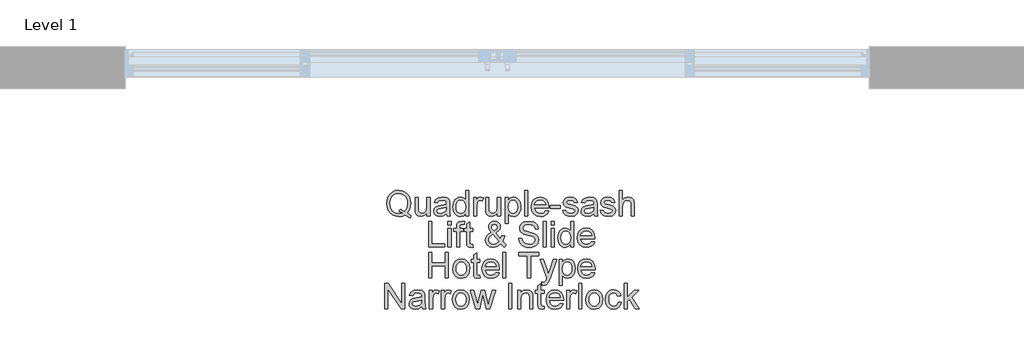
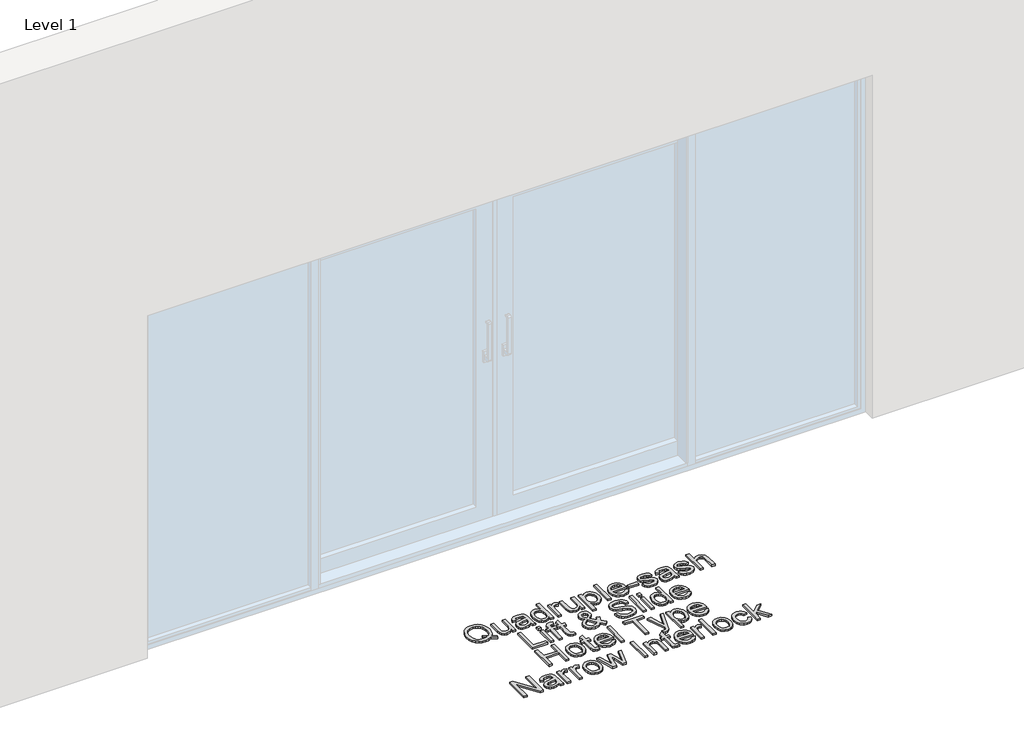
# One storey, part 4 of 13: 1 proxy.
"""IFC4 building model written with IfcOpenShell, lengths in millimetres."""

from ifc_helpers import new_model, si_unit, origin, origin_with_axes, place, context, project, spatial, polyline, outline, extrude, element, save

model = new_model("IFC4")

# Units and contexts
model_context = context("Model", 3, world=origin())
ifc_project = project(units=[si_unit("LENGTHUNIT", "METRE", prefix="MILLI")], contexts=[model_context])

# Site, building, storey
site = spatial("IfcSite", under=ifc_project)
building = spatial("IfcBuilding", under=site)
storey = spatial("IfcBuildingStorey", under=building, Name="Level 1", Elevation=0.0)

# Proxy
placement = place(None, origin())
element("IfcBuildingElementProxy", 1, Name="150mm Arial", ObjectType="150mm Arial", at=placement, inside=storey, context=model_context, shape_type="SweptSolid", body=[
    extrude(outline(polyline([(1197.0276643, -5879.5997474), (1220.388171, -5895.3083086), (1215.3113995, -5909.1038834), (1184.2989473, -5891.4823358), (1166.8705377, -5897.8834825), (1147.6946887, -5900.0171981), (1128.4268692, -5897.5569873), (1111.0168538, -5890.1763547), (1096.4349312, -5878.3397515), (1085.6513903, -5862.5116287), (1078.9881276, -5843.5611074), (1076.7670401, -5822.3573089), (1078.9835291, -5801.1351163), (1085.6329962, -5781.9086836), (1096.3751504, -5765.855233), (1110.869701, -5754.151987), (1128.2153371, -5747.0058793), (1147.5107477, -5744.6238433), (1166.9579097, -5747.0610616), (1184.3909178, -5754.3727162), (1198.8624757, -5766.0713637), (1209.4252875, -5781.6695603), (1215.8816165, -5800.3395715), (1218.0337262, -5821.2536629), (1212.8098019, -5854.1791015), (1206.2523053, -5867.8367206), (1197.0276643, -5879.5997474)]), holes=[polyline([(1152.8818249, -5854.5469835), (1168.7191448, -5860.534263), (1181.5030441, -5868.8575931), (1194.7743871, -5849.4334238), (1199.1981681, -5822.2101561), (1197.6346696, -5805.6324737), (1192.9441741, -5791.2896744), (1185.2416449, -5779.5450417), (1174.6420449, -5770.7618591), (1161.8627441, -5765.2850159), (1147.6211123, -5763.4594015), (1127.093297, -5767.152017), (1110.3914544, -5778.2298636), (1099.2998123, -5796.6377589), (1095.6025982, -5822.3205207), (1099.2584256, -5847.4514595), (1110.2259075, -5865.9697195), (1126.8771663, -5877.3786598), (1147.5843241, -5881.18164), (1167.8546221, -5877.318879), (1148.0257825, -5868.9679577), (1152.8818249, -5854.5469835)])]), origin_with_axes(), (0.0, 0.0, 1.0), 10.0),
    extrude(outline(polyline([(1314.5659618, -5897.6627533), (1314.5659618, -5878.6432542), (1299.8138937, -5894.6737121), (1280.5736654, -5900.0171981), (1262.8601473, -5896.2648018), (1250.6464651, -5886.8470227), (1245.0362647, -5872.9778715), (1243.9326187, -5855.4666885), (1243.9326187, -5787.0038492), (1262.7681768, -5787.0038492), (1262.7681768, -5846.6007324), (1263.908611, -5865.8041726), (1271.3582214, -5877.0797557), (1285.3929195, -5881.18164), (1301.1198748, -5876.9877852), (1311.5125412, -5865.5650493), (1314.5659618, -5844.5773814), (1314.5659618, -5787.0038492), (1333.4015199, -5787.0038492), (1333.4015199, -5897.6627533), (1314.5659618, -5897.6627533)])), origin_with_axes(), (0.0, 0.0, 1.0), 10.0),
    extrude(outline(polyline([(1429.9337554, -5883.5360847), (1411.6684144, -5896.30159), (1391.4900869, -5900.0171981), (1375.7493361, -5897.782315), (1364.1380606, -5891.0776656), (1356.9781573, -5880.8965314), (1354.5915228, -5868.2321937), (1358.1967664, -5853.3329729), (1367.6697278, -5842.5172423), (1380.8582973, -5836.3368247), (1397.1554697, -5833.5041334), (1429.8233908, -5827.0294103), (1429.9337554, -5822.8355555), (1428.6369714, -5814.4294519), (1424.7466193, -5808.9296161), (1416.0462101, -5804.846126), (1403.9244984, -5803.4849626), (1384.868211, -5807.1086002), (1375.7815258, -5819.966076), (1356.9459676, -5817.6116312), (1365.0945538, -5799.2175314), (1381.5020908, -5788.438589), (1406.3525196, -5784.6494044), (1429.1795974, -5787.9971306), (1442.0738613, -5796.4032342), (1447.8496086, -5809.1871335), (1448.7693136, -5825.6682469), (1448.7693136, -5849.10233), (1449.7258068, -5881.8254334), (1453.4782031, -5897.6627533), (1434.642645, -5897.6627533), (1429.9337554, -5883.5360847)]), holes=[polyline([(1429.9337554, -5845.8649684), (1399.5467026, -5851.6407157), (1383.3415008, -5854.6941363), (1376.0022549, -5859.6605432), (1373.427081, -5866.9078185), (1379.0372814, -5877.0981498), (1395.5000007, -5881.18164), (1414.556288, -5876.6750855), (1426.8435467, -5865.7673844), (1429.8233908, -5851.1992574), (1429.9337554, -5845.8649684)])]), origin_with_axes(), (0.0, 0.0, 1.0), 10.0),
    extrude(outline(polyline([(1542.9471044, -5897.6627533), (1542.9471044, -5879.894053), (1530.4851018, -5894.9864118), (1513.2590273, -5900.0171981), (1501.0821333, -5898.1961822), (1489.9353089, -5892.7331346), (1480.4991357, -5884.0097328), (1473.4541955, -5872.4076544), (1469.0672027, -5858.3959489), (1467.6048717, -5842.4436659), (1472.994343, -5812.4612833), (1479.7265835, -5800.5694978), (1489.1443626, -5791.8231033), (1500.5349088, -5786.4428292), (1513.1854509, -5784.6494044), (1530.5494811, -5789.7813583), (1542.9471044, -5803.1170806), (1542.9471044, -5746.9782881), (1561.7826625, -5746.9782881), (1561.7826625, -5897.6627533), (1542.9471044, -5897.6627533)]), holes=[polyline([(1486.4404299, -5842.3700895), (1488.5649484, -5859.4076244), (1494.938504, -5871.5247376), (1504.1999332, -5878.7674144), (1514.9880727, -5881.18164), (1525.7716137, -5878.877779), (1534.7985182, -5871.966196), (1540.9099578, -5860.3181323), (1542.9471044, -5843.8048292), (1540.8731696, -5825.7510203), (1534.6513654, -5813.2338354), (1525.3945347, -5805.9221808), (1514.2155205, -5803.4849626), (1503.3170164, -5805.8256118), (1494.386681, -5812.8475594), (1488.4269927, -5824.9094903), (1486.4404299, -5842.3700895)])]), origin_with_axes(), (0.0, 0.0, 1.0), 10.0),
    extrude(outline(polyline([(1590.0359997, -5897.6627533), (1590.0359997, -5787.0038492), (1606.5171131, -5787.0038492), (1606.5171131, -5803.374598), (1618.2157606, -5788.2914362), (1629.9879844, -5784.6494044), (1648.897119, -5790.4619399), (1642.6063369, -5807.3477235), (1629.362585, -5803.4849626), (1618.7124013, -5807.2005707), (1611.9249785, -5817.5012666), (1608.8715579, -5839.5006099), (1608.8715579, -5897.6627533), (1590.0359997, -5897.6627533)])), origin_with_axes(), (0.0, 0.0, 1.0), 10.0),
    extrude(outline(polyline([(1731.3026859, -5897.6627533), (1731.3026859, -5878.6432542), (1716.5506179, -5894.6737121), (1697.3103895, -5900.0171981), (1679.5968715, -5896.2648018), (1667.3831892, -5886.8470227), (1661.7729888, -5872.9778715), (1660.6693428, -5855.4666885), (1660.6693428, -5787.0038492), (1679.504901, -5787.0038492), (1679.504901, -5846.6007324), (1680.6453352, -5865.8041726), (1688.0949456, -5877.0797557), (1702.1296437, -5881.18164), (1717.856599, -5876.9877852), (1728.2492653, -5865.5650493), (1731.3026859, -5844.5773814), (1731.3026859, -5787.0038492), (1750.138244, -5787.0038492), (1750.138244, -5897.6627533), (1731.3026859, -5897.6627533)])), origin_with_axes(), (0.0, 0.0, 1.0), 10.0),
    extrude(outline(polyline([(1776.0371365, -5940.0427592), (1776.0371365, -5787.0038492), (1794.8726947, -5787.0038492), (1794.8726947, -5805.4715254), (1807.8957173, -5789.8549347), (1825.4804767, -5784.6494044), (1838.2183907, -5786.4704203), (1849.3560181, -5791.9334679), (1858.4243093, -5800.7074535), (1864.9542147, -5812.4612833), (1870.2149273, -5841.4871727), (1868.7296037, -5857.5958055), (1864.273633, -5872.0029842), (1856.9895695, -5883.9775431), (1847.0199675, -5892.7883169), (1835.408692, -5898.2099778), (1823.1996083, -5900.0171981), (1806.8104654, -5895.1795499), (1794.8726947, -5882.9474735), (1794.8726947, -5940.0427592), (1776.0371365, -5940.0427592)]), holes=[polyline([(1794.8726947, -5843.2162181), (1796.9098412, -5860.1020016), (1803.0212808, -5871.9110137), (1812.0389883, -5878.8639834), (1822.7949381, -5881.18164), (1833.7256319, -5878.7812099), (1842.9732655, -5871.5799199), (1849.2778432, -5859.3386465), (1851.3793691, -5841.8182665), (1849.328427, -5825.0244534), (1843.1756006, -5813.0498945), (1834.1716888, -5805.8761955), (1823.5674903, -5803.4849626), (1812.921905, -5806.0279469), (1803.5731038, -5813.6568997), (1797.047797, -5826.1326979), (1794.8726947, -5843.2162181)])]), origin_with_axes(), (0.0, 0.0, 1.0), 10.0),
    extrude(outline(polyline([(1891.4049302, -5897.6627533), (1891.4049302, -5746.9782881), (1910.2404883, -5746.9782881), (1910.2404883, -5897.6627533), (1891.4049302, -5897.6627533)])), origin_with_axes(), (0.0, 0.0, 1.0), 10.0),
    extrude(outline(polyline([(2015.9697738, -5864.7005266), (2034.4374499, -5867.0549713), (2027.7833843, -5880.9701078), (2017.1653902, -5891.3719712), (2002.822591, -5897.8558914), (1984.9941098, -5900.0171981), (1962.8935989, -5896.2877944), (1945.8882537, -5885.0995832), (1935.0449319, -5867.1791315), (1931.4304913, -5843.2530063), (1935.0817201, -5818.5221391), (1946.0354065, -5800.0268718), (1962.8108255, -5788.4937713), (1983.927252, -5784.6494044), (2004.3860894, -5788.4845742), (2020.7338456, -5799.9900836), (2031.4530072, -5818.4485627), (2035.0260611, -5843.1426417), (2034.9156965, -5848.2194132), (1950.2660494, -5848.2194132), (1953.5264036, -5862.3184907), (1961.1001742, -5872.6835659), (1972.030868, -5879.0571214), (1985.3619918, -5881.18164), (2003.8296679, -5877.2453026), (2015.9697738, -5864.7005266)]), holes=[polyline([(1950.2660494, -5829.383855), (2016.190503, -5829.383855), (2013.6429201, -5819.4326471), (2008.6489221, -5812.3141305), (1997.6676445, -5805.6922545), (1983.8536756, -5803.4849626), (1971.1571482, -5805.2461976), (1960.6587158, -5810.5299028), (1953.3608567, -5818.765861), (1950.2660494, -5829.383855)])]), origin_with_axes(), (0.0, 0.0, 1.0), 10.0),
    extrude(outline(polyline([(2044.4438402, -5852.9283027), (2044.4438402, -5834.0927446), (2103.3049594, -5834.0927446), (2103.3049594, -5852.9283027), (2044.4438402, -5852.9283027)])), origin_with_axes(), (0.0, 0.0, 1.0), 10.0),
    extrude(outline(polyline([(2117.431628, -5864.7005266), (2136.2671862, -5862.3460818), (2139.2378333, -5870.4026975), (2144.9859895, -5876.3255976), (2164.9619818, -5881.18164), (2184.165422, -5876.7302678), (2190.4194159, -5866.2824192), (2188.8467203, -5861.4815591), (2184.1286338, -5857.8211333), (2164.7412526, -5852.4500561), (2136.3775508, -5843.2346122), (2123.9983216, -5832.4740638), (2119.7860728, -5817.2805374), (2123.1705872, -5803.2458393), (2132.4044252, -5792.5220791), (2144.3789842, -5786.9486669), (2160.5841861, -5784.6494044), (2183.5032344, -5788.3466185), (2198.0713614, -5798.3530087), (2204.5460845, -5815.2571864), (2185.7105263, -5817.6116312), (2178.6287979, -5807.2189648), (2162.055714, -5803.4849626), (2144.0294963, -5807.0534179), (2138.6216309, -5815.367551), (2140.8657111, -5820.8489927), (2147.8922572, -5825.0060593), (2164.1158532, -5829.015973), (2191.7621852, -5837.8819291), (2204.6012668, -5847.9251076), (2209.254974, -5864.2958564), (2203.7919264, -5882.3220741), (2188.0281829, -5895.4002791), (2164.7044644, -5900.0171981), (2145.7125564, -5897.791512), (2131.8526022, -5891.1144538), (2122.6003701, -5880.0595999), (2117.431628, -5864.7005266)])), origin_with_axes(), (0.0, 0.0, 1.0), 10.0),
    extrude(outline(polyline([(2301.07832, -5883.5360847), (2282.812979, -5896.30159), (2262.6346515, -5900.0171981), (2246.8939007, -5897.782315), (2235.2826252, -5891.0776656), (2228.1227219, -5880.8965314), (2225.7360874, -5868.2321937), (2229.341331, -5853.3329729), (2238.8142923, -5842.5172423), (2252.0028619, -5836.3368247), (2268.3000342, -5833.5041334), (2300.9679554, -5827.0294103), (2301.07832, -5822.8355555), (2299.781536, -5814.4294519), (2295.8911839, -5808.9296161), (2287.1907747, -5804.846126), (2275.069063, -5803.4849626), (2256.0127756, -5807.1086002), (2246.9260903, -5819.966076), (2228.0905322, -5817.6116312), (2236.2391184, -5799.2175314), (2252.6466554, -5788.438589), (2277.4970841, -5784.6494044), (2300.3241619, -5787.9971306), (2313.2184259, -5796.4032342), (2318.9941732, -5809.1871335), (2319.9138782, -5825.6682469), (2319.9138782, -5849.10233), (2320.8703714, -5881.8254334), (2324.6227677, -5897.6627533), (2305.7872096, -5897.6627533), (2301.07832, -5883.5360847)]), holes=[polyline([(2301.07832, -5845.8649684), (2270.6912672, -5851.6407157), (2254.4860653, -5854.6941363), (2247.1468195, -5859.6605432), (2244.5716456, -5866.9078185), (2250.181846, -5877.0981498), (2266.6445653, -5881.18164), (2285.7008526, -5876.6750855), (2297.9881113, -5865.7673844), (2300.9679554, -5851.1992574), (2301.07832, -5845.8649684)])]), origin_with_axes(), (0.0, 0.0, 1.0), 10.0),
    extrude(outline(polyline([(2338.7494363, -5864.7005266), (2357.5849945, -5862.3460818), (2360.5556416, -5870.4026975), (2366.3037978, -5876.3255976), (2386.2797901, -5881.18164), (2405.4832303, -5876.7302678), (2411.7372242, -5866.2824192), (2410.1645286, -5861.4815591), (2405.4464421, -5857.8211333), (2386.0590609, -5852.4500561), (2357.6953591, -5843.2346122), (2345.3161299, -5832.4740638), (2341.1038811, -5817.2805374), (2344.4883955, -5803.2458393), (2353.7222335, -5792.5220791), (2365.6967925, -5786.9486669), (2381.9019944, -5784.6494044), (2404.8210427, -5788.3466185), (2419.3891697, -5798.3530087), (2425.8638928, -5815.2571864), (2407.0283346, -5817.6116312), (2399.9466062, -5807.2189648), (2383.3735223, -5803.4849626), (2365.3473046, -5807.0534179), (2359.9394392, -5815.367551), (2362.1835194, -5820.8489927), (2369.2100655, -5825.0060593), (2385.4336615, -5829.015973), (2413.0799935, -5837.8819291), (2425.9190751, -5847.9251076), (2430.5727823, -5864.2958564), (2425.1097347, -5882.3220741), (2409.3459912, -5895.4002791), (2386.0222727, -5900.0171981), (2367.0303647, -5897.791512), (2353.1704105, -5891.1144538), (2343.9181784, -5880.0595999), (2338.7494363, -5864.7005266)])), origin_with_axes(), (0.0, 0.0, 1.0), 10.0),
    extrude(outline(polyline([(2451.7627852, -5897.6627533), (2451.7627852, -5746.9782881), (2470.5983434, -5746.9782881), (2470.5983434, -5802.3813166), (2485.2860321, -5789.0823825), (2503.3766292, -5784.6494044), (2524.5298439, -5789.4870527), (2537.3689255, -5802.8595632), (2541.2316865, -5827.6180215), (2541.2316865, -5897.6627533), (2522.3961283, -5897.6627533), (2522.3961283, -5829.567796), (2520.8970092, -5817.7771781), (2516.3996518, -5809.7021683), (2509.1523765, -5805.039264), (2499.4035036, -5803.4849626), (2483.9708539, -5807.6788173), (2473.6701581, -5819.046371), (2470.5983434, -5838.8752105), (2470.5983434, -5897.6627533), (2451.7627852, -5897.6627533)])), origin_with_axes(), (0.0, 0.0, 1.0), 10.0),
    extrude(outline(polyline([(1325.1609632, -6080.6249801), (1325.1609632, -5929.9405149), (1343.9965214, -5929.9405149), (1343.9965214, -6061.789422), (1419.338754, -6061.789422), (1419.338754, -6080.6249801), (1325.1609632, -6080.6249801)])), origin_with_axes(), (0.0, 0.0, 1.0), 10.0),
    extrude(outline(polyline([(1438.1743121, -5948.776073), (1438.1743121, -5929.9405149), (1457.0098703, -5929.9405149), (1457.0098703, -5948.776073), (1438.1743121, -5948.776073)])), origin_with_axes(), (0.0, 0.0, 1.0), 10.0),
    extrude(outline(polyline([(1438.1743121, -6080.6249801), (1438.1743121, -5969.966076), (1457.0098703, -5969.966076), (1457.0098703, -6080.6249801), (1438.1743121, -6080.6249801)])), origin_with_axes(), (0.0, 0.0, 1.0), 10.0),
    extrude(outline(polyline([(1586.5043326, -6064.9164189), (1588.8587774, -6081.1768031), (1574.7688969, -6082.9794249), (1558.9867593, -6079.8524279), (1551.1140847, -6071.6486594), (1548.8332163, -6050.2747155), (1548.8332163, -5988.8016341), (1534.7065477, -5988.8016341), (1534.7065477, -5969.966076), (1548.8332163, -5969.966076), (1548.8332163, -5943.0739021), (1567.6687744, -5932.0006541), (1567.6687744, -5969.966076), (1586.5043326, -5969.966076), (1586.5043326, -5988.8016341), (1567.6687744, -5988.8016341), (1567.6687744, -6049.7228925), (1568.6620558, -6059.4349772), (1571.8810233, -6062.8746738), (1578.3005641, -6064.1438667), (1586.5043326, -6064.9164189)])), origin_with_axes(), (0.0, 0.0, 1.0), 10.0),
    extrude(outline(polyline([(1489.9720971, -6080.6249801), (1489.9720971, -5988.8016341), (1473.4909837, -5988.8016341), (1473.4909837, -5969.966076), (1489.9720971, -5969.966076), (1489.9720971, -5958.8192515), (1491.9586598, -5943.1106903), (1501.5971681, -5931.8902895), (1520.5798791, -5927.5860701), (1537.7599682, -5929.6462093), (1535.0008533, -5947.3045451), (1524.1483344, -5946.4216283), (1512.2841401, -5949.5486252), (1508.8076552, -5961.2104845), (1508.8076552, -5969.966076), (1529.9976581, -5969.966076), (1529.9976581, -5988.8016341), (1508.8076552, -5988.8016341), (1508.8076552, -6080.6249801), (1489.9720971, -6080.6249801)])), origin_with_axes(), (0.0, 0.0, 1.0), 10.0),
    extrude(outline(polyline([(1750.6164906, -6062.0101512), (1730.6404983, -6077.7371064), (1707.2799916, -6082.9794249), (1686.4946589, -6079.0982698), (1670.4917921, -6067.4548047), (1662.2420383, -6054.054703), (1659.4921204, -6039.1646793), (1661.7040109, -6025.9669127), (1668.3396824, -6014.1119154), (1679.3715437, -6003.6088844), (1694.7720038, -5994.4670168), (1681.6202224, -5975.4107295), (1678.3276786, -5961.2840609), (1680.9212467, -5948.5645409), (1688.7019508, -5937.6292486), (1700.4097953, -5930.0968647), (1714.7847843, -5927.5860701), (1728.4607975, -5929.9865001), (1739.3960898, -5937.1877902), (1746.5697887, -5947.7552005), (1748.9610217, -5960.2539913), (1747.1905896, -5970.7478252), (1741.8792933, -5980.4507128), (1720.634108, -5997.4836492), (1747.8941639, -6031.4391574), (1756.024356, -6010.5802482), (1774.8599141, -6014.6637384), (1761.5425859, -6045.6761906), (1784.2776932, -6068.4848743), (1770.1510246, -6082.9794249), (1750.6164906, -6062.0101512)]), holes=[polyline([(1711.1059644, -5985.6010608), (1726.5937964, -5973.9208074), (1730.1254635, -5962.8291653), (1725.4717563, -5951.0017591), (1713.8282911, -5946.4216283), (1701.9273086, -5950.9649709), (1697.1632367, -5962.0566131), (1698.7819175, -5968.9544005), (1703.6747481, -5976.6247401), (1711.1059644, -5985.6010608)]), polyline([(1737.9981382, -6048.4353055), (1704.3737238, -6006.4599699), (1683.6803616, -6022.2421075), (1678.3276786, -6036.6630817), (1680.1578915, -6045.5474319), (1685.6485303, -6054.7628758), (1694.4960923, -6061.798619), (1706.3970748, -6064.1438667), (1723.7059227, -6059.766071), (1737.9981382, -6048.4353055)])]), origin_with_axes(), (0.0, 0.0, 1.0), 10.0),
    extrude(outline(polyline([(1857.265481, -6028.8271952), (1876.1010392, -6028.8271952), (1882.1710921, -6047.6811474), (1896.9967365, -6059.6005241), (1919.584691, -6064.1438667), (1939.2663778, -6060.7041701), (1951.9767007, -6051.2496028), (1956.1521613, -6038.6128563), (1953.0251644, -6026.8590265), (1940.222871, -6018.3057701), (1912.7972682, -6011.1136771), (1883.2747381, -6001.8246567), (1867.2534772, -5987.8083527), (1861.9743706, -5969.0831592), (1863.6068469, -5958.0512978), (1868.504276, -5947.7643976), (1876.5378991, -5939.0455943), (1887.5789574, -5932.7180239), (1915.5012009, -5927.5860701), (1945.2996425, -5932.9571472), (1956.7223784, -5939.5882202), (1965.1652702, -5948.7392848), (1970.5087562, -5959.840124), (1972.6332747, -5972.3205207), (1953.7977166, -5972.3205207), (1950.3396258, -5961.0817258), (1943.1291387, -5952.9699278), (1931.8627526, -5948.0587031), (1916.2369649, -5946.4216283), (1900.2432951, -5948.040309), (1889.2712146, -5952.8963514), (1882.9252502, -5960.0424591), (1880.8099287, -5968.5313362), (1882.3090479, -5975.7694144), (1886.8064053, -5981.591147), (1917.56134, -5992.1125721), (1950.8914488, -6001.5671393), (1961.6290045, -6008.4005474), (1969.1200017, -6016.8342421), (1973.52079, -6026.7762531), (1974.9877195, -6038.1346097), (1973.3000608, -6049.7458851), (1968.2370849, -6060.6673819), (1960.0057252, -6070.0667668), (1948.8129155, -6077.1117071), (1935.353033, -6081.5124954), (1920.320455, -6082.9794249), (1901.8665744, -6081.3975323), (1886.6776466, -6076.6518546), (1874.5789274, -6068.7239976), (1865.3956731, -6057.5955672), (1859.5003642, -6044.0391157), (1857.265481, -6028.8271952)])), origin_with_axes(), (0.0, 0.0, 1.0), 10.0),
    extrude(outline(polyline([(2000.886612, -6080.6249801), (2000.886612, -5929.9405149), (2019.7221701, -5929.9405149), (2019.7221701, -6080.6249801), (2000.886612, -6080.6249801)])), origin_with_axes(), (0.0, 0.0, 1.0), 10.0),
    extrude(outline(polyline([(2047.9755073, -5948.776073), (2047.9755073, -5929.9405149), (2066.8110655, -5929.9405149), (2066.8110655, -5948.776073), (2047.9755073, -5948.776073)])), origin_with_axes(), (0.0, 0.0, 1.0), 10.0),
    extrude(outline(polyline([(2047.9755073, -6080.6249801), (2047.9755073, -5969.966076), (2066.8110655, -5969.966076), (2066.8110655, -6080.6249801), (2047.9755073, -6080.6249801)])), origin_with_axes(), (0.0, 0.0, 1.0), 10.0),
    extrude(outline(polyline([(2163.343301, -6080.6249801), (2163.343301, -6062.8562797), (2150.8812984, -6077.9486386), (2133.655224, -6082.9794249), (2121.47833, -6081.158409), (2110.3315055, -6075.6953614), (2100.8953323, -6066.9719596), (2093.8503921, -6055.3698811), (2089.4633993, -6041.3581756), (2088.0010684, -6025.4058926), (2093.3905396, -5995.42351), (2100.1227802, -5983.5317245), (2109.5405592, -5974.7853301), (2120.9311055, -5969.4050559), (2133.5816476, -5967.6116312), (2150.9456778, -5972.743585), (2163.343301, -5986.0793073), (2163.343301, -5929.9405149), (2182.1788592, -5929.9405149), (2182.1788592, -6080.6249801), (2163.343301, -6080.6249801)]), holes=[polyline([(2106.8366266, -6025.3323162), (2108.9611451, -6042.3698511), (2115.3347007, -6054.4869644), (2124.5961299, -6061.7296411), (2135.3842694, -6064.1438667), (2146.1678104, -6061.8400057), (2155.1947148, -6054.9284227), (2161.3061545, -6043.2803591), (2163.343301, -6026.767056), (2161.2693663, -6008.7132471), (2155.047562, -5996.1960622), (2145.7907313, -5988.8844076), (2134.6117172, -5986.4471893), (2123.7132131, -5988.7878385), (2114.7828777, -5995.8097861), (2108.8231893, -6007.871717), (2106.8366266, -6025.3323162)])]), origin_with_axes(), (0.0, 0.0, 1.0), 10.0),
    extrude(outline(polyline([(2287.9081446, -6047.6627533), (2306.3758208, -6050.0171981), (2299.7217552, -6063.9323346), (2289.1037611, -6074.334198), (2274.7609618, -6080.8181182), (2256.9324806, -6082.9794249), (2234.8319697, -6079.2500212), (2217.8266245, -6068.06181), (2206.9833027, -6050.1413583), (2203.3688621, -6026.215233), (2207.0200909, -6001.4843659), (2217.9737773, -5982.9890986), (2234.7491963, -5971.455998), (2255.8656228, -5967.6116312), (2276.3244603, -5971.446801), (2292.6722164, -5982.9523104), (2303.3913781, -6001.4107895), (2306.9644319, -6026.1048684), (2306.8540673, -6031.18164), (2222.2044203, -6031.18164), (2225.4647744, -6045.2807174), (2233.038545, -6055.6457926), (2243.9692388, -6062.0193482), (2257.3003626, -6064.1438667), (2275.7680388, -6060.2075294), (2287.9081446, -6047.6627533)]), holes=[polyline([(2222.2044203, -6012.3460818), (2288.1288738, -6012.3460818), (2285.581291, -6002.3948738), (2280.5872929, -5995.2763572), (2269.6060153, -5988.6544813), (2255.7920464, -5986.4471893), (2243.0955191, -5988.2084244), (2232.5970866, -5993.4921296), (2225.2992275, -6001.7280877), (2222.2044203, -6012.3460818)])]), origin_with_axes(), (0.0, 0.0, 1.0), 10.0),
    extrude(outline(polyline([(1323.9837408, -6263.5872069), (1323.9837408, -6112.9027417), (1342.819299, -6112.9027417), (1342.819299, -6174.1183057), (1422.8704211, -6174.1183057), (1422.8704211, -6112.9027417), (1441.7059793, -6112.9027417), (1441.7059793, -6263.5872069), (1422.8704211, -6263.5872069), (1422.8704211, -6192.9538638), (1342.819299, -6192.9538638), (1342.819299, -6263.5872069), (1323.9837408, -6263.5872069)])), origin_with_axes(), (0.0, 0.0, 1.0), 10.0),
    extrude(outline(polyline([(1467.6048717, -6208.2577548), (1471.6791648, -6181.5771131), (1483.9020441, -6162.8243284), (1499.0036, -6153.6364756), (1517.0850001, -6150.573858), (1536.8724529, -6154.3032617), (1552.6775831, -6165.4914729), (1563.0380598, -6183.2555747), (1566.4915521, -6206.7126504), (1564.9648418, -6225.7413466), (1560.3847109, -6240.2267002), (1552.8845168, -6251.0746205), (1542.5976165, -6259.191017), (1530.3793357, -6264.253993), (1517.0850001, -6265.9416516), (1497.058424, -6262.2260435), (1481.2716879, -6251.079219), (1471.0215758, -6232.9426367), (1467.6048717, -6208.2577548)]), holes=[polyline([(1486.4404299, -6208.2209666), (1488.6201307, -6225.2676986), (1495.1592332, -6237.4124029), (1505.0000766, -6244.6826709), (1517.0850001, -6247.1060935), (1529.1147413, -6244.6688753), (1538.9371906, -6237.3572206), (1545.4762931, -6225.0515679), (1547.6559939, -6207.6323554), (1545.4624975, -6191.0822642), (1538.8820083, -6179.1031067), (1529.0457635, -6171.8328388), (1517.0850001, -6169.4094161), (1505.0000766, -6171.8236417), (1495.1592332, -6179.0663185), (1488.6201307, -6191.1834317), (1486.4404299, -6208.2209666)])]), origin_with_axes(), (0.0, 0.0, 1.0), 10.0),
    extrude(outline(polyline([(1627.707116, -6247.8786457), (1630.0615608, -6264.1390299), (1615.9716804, -6265.9416516), (1600.1895428, -6262.8146547), (1592.3168681, -6254.6108862), (1590.0359997, -6233.2369423), (1590.0359997, -6171.7638609), (1575.9093311, -6171.7638609), (1575.9093311, -6152.9283027), (1590.0359997, -6152.9283027), (1590.0359997, -6126.0361289), (1608.8715579, -6114.9628808), (1608.8715579, -6152.9283027), (1627.707116, -6152.9283027), (1627.707116, -6171.7638609), (1608.8715579, -6171.7638609), (1608.8715579, -6232.6851193), (1609.8648393, -6242.397204), (1613.0838067, -6245.8369006), (1619.5033476, -6247.1060935), (1627.707116, -6247.8786457)])), origin_with_axes(), (0.0, 0.0, 1.0), 10.0),
    extrude(outline(polyline([(1724.0186224, -6230.6249801), (1742.4862985, -6232.9794249), (1735.832233, -6246.8945613), (1725.2142389, -6257.2964248), (1710.8714396, -6263.7803449), (1693.0429584, -6265.9416516), (1670.9424475, -6262.2122479), (1653.9371023, -6251.0240367), (1643.0937805, -6233.1035851), (1639.4793399, -6209.1774598), (1643.1305687, -6184.4465927), (1654.0842551, -6165.9513254), (1670.8596741, -6154.4182248), (1691.9761006, -6150.573858), (1712.4349381, -6154.4090278), (1728.7826942, -6165.9145372), (1739.5018559, -6184.3730163), (1743.0749097, -6209.0670952), (1742.9645451, -6214.1438667), (1658.314898, -6214.1438667), (1661.5752522, -6228.2429442), (1669.1490228, -6238.6080194), (1680.0797166, -6244.981575), (1693.4108404, -6247.1060935), (1711.8785165, -6243.1697561), (1724.0186224, -6230.6249801)]), holes=[polyline([(1658.314898, -6195.3083086), (1724.2393516, -6195.3083086), (1721.6917688, -6185.3571006), (1716.6977707, -6178.238584), (1705.7164931, -6171.6167081), (1691.9025242, -6169.4094161), (1679.2059968, -6171.1706512), (1668.7075644, -6176.4543563), (1661.4097053, -6184.6903145), (1658.314898, -6195.3083086)])]), origin_with_axes(), (0.0, 0.0, 1.0), 10.0),
    extrude(outline(polyline([(1761.9104679, -6263.5872069), (1761.9104679, -6112.9027417), (1780.746026, -6112.9027417), (1780.746026, -6263.5872069), (1761.9104679, -6263.5872069)])), origin_with_axes(), (0.0, 0.0, 1.0), 10.0),
    extrude(outline(polyline([(1907.8860436, -6263.5872069), (1907.8860436, -6131.7382998), (1858.4427034, -6131.7382998), (1858.4427034, -6112.9027417), (1976.1649419, -6112.9027417), (1976.1649419, -6131.7382998), (1926.7216017, -6131.7382998), (1926.7216017, -6263.5872069), (1907.8860436, -6263.5872069)])), origin_with_axes(), (0.0, 0.0, 1.0), 10.0),
    extrude(outline(polyline([(1995.0005, -6305.9672127), (1992.6460553, -6287.8306304), (2002.2109871, -6289.4860993), (2011.1505196, -6287.4075661), (2016.6319613, -6281.6134246), (2021.7823093, -6267.7442734), (2023.2538373, -6263.1825367), (1983.2282762, -6152.9283027), (2003.0939039, -6152.9283027), (2024.320695, -6214.3645959), (2031.7151232, -6238.9391132), (2039.1095513, -6217.2340755), (2060.9249536, -6152.9283027), (2080.6434285, -6152.9283027), (2042.1261836, -6266.2359572), (2032.1197933, -6290.8104745), (2021.1936981, -6304.0910145), (2006.5152065, -6308.3216575), (1995.0005, -6305.9672127)])), origin_with_axes(), (0.0, 0.0, 1.0), 10.0),
    extrude(outline(polyline([(2096.2416251, -6305.9672127), (2096.2416251, -6152.9283027), (2115.0771833, -6152.9283027), (2115.0771833, -6171.3959789), (2128.1002059, -6155.7793882), (2145.6849653, -6150.573858), (2158.4228793, -6152.3948738), (2169.5605067, -6157.8579215), (2178.6287979, -6166.631907), (2185.1587033, -6178.3857368), (2190.4194159, -6207.4116262), (2188.9340923, -6223.5202591), (2184.4781216, -6237.9274377), (2177.1940581, -6249.9019967), (2167.2244561, -6258.7127704), (2155.6131806, -6264.1344313), (2143.4040969, -6265.9416516), (2127.014954, -6261.1040034), (2115.0771833, -6248.8719271), (2115.0771833, -6305.9672127), (2096.2416251, -6305.9672127)]), holes=[polyline([(2115.0771833, -6209.1406716), (2117.1143298, -6226.0264552), (2123.2257695, -6237.8354672), (2132.2434769, -6244.7884369), (2142.9994267, -6247.1060935), (2153.9301205, -6244.7056635), (2163.1777541, -6237.5043734), (2169.4823318, -6225.2631), (2171.5838577, -6207.74272), (2169.5329156, -6190.9489069), (2163.3800892, -6178.974348), (2154.3761774, -6171.8006491), (2143.7719789, -6169.4094161), (2133.1263936, -6171.9524004), (2123.7775924, -6179.5813533), (2117.2522856, -6192.0571514), (2115.0771833, -6209.1406716)])]), origin_with_axes(), (0.0, 0.0, 1.0), 10.0),
    extrude(outline(polyline([(2289.085367, -6230.6249801), (2307.5530431, -6232.9794249), (2300.8989775, -6246.8945613), (2290.2809835, -6257.2964248), (2275.9381842, -6263.7803449), (2258.109703, -6265.9416516), (2236.0091921, -6262.2122479), (2219.0038469, -6251.0240367), (2208.1605251, -6233.1035851), (2204.5460845, -6209.1774598), (2208.1973133, -6184.4465927), (2219.1509997, -6165.9513254), (2235.9264187, -6154.4182248), (2257.0428452, -6150.573858), (2277.5016827, -6154.4090278), (2293.8494388, -6165.9145372), (2304.5686004, -6184.3730163), (2308.1416543, -6209.0670952), (2308.0312897, -6214.1438667), (2223.3816426, -6214.1438667), (2226.6419968, -6228.2429442), (2234.2157674, -6238.6080194), (2245.1464612, -6244.981575), (2258.477585, -6247.1060935), (2276.9452611, -6243.1697561), (2289.085367, -6230.6249801)]), holes=[polyline([(2223.3816426, -6195.3083086), (2289.3060962, -6195.3083086), (2286.7585134, -6185.3571006), (2281.7645153, -6178.238584), (2270.7832377, -6171.6167081), (2256.9692688, -6169.4094161), (2244.2727414, -6171.1706512), (2233.774309, -6176.4543563), (2226.4764499, -6184.6903145), (2223.3816426, -6195.3083086)])]), origin_with_axes(), (0.0, 0.0, 1.0), 10.0),
    extrude(outline(polyline([(1064.9948162, -6446.5494336), (1064.9948162, -6295.8649684), (1085.1547496, -6295.8649684), (1163.8814965, -6415.2426759), (1163.8814965, -6295.8649684), (1182.7170547, -6295.8649684), (1182.7170547, -6446.5494336), (1162.5571213, -6446.5494336), (1083.8303744, -6327.134938), (1083.8303744, -6446.5494336), (1064.9948162, -6446.5494336)])), origin_with_axes(), (0.0, 0.0, 1.0), 10.0),
    extrude(outline(polyline([(1283.9581798, -6432.422765), (1265.6928387, -6445.1882703), (1245.5145113, -6448.9038784), (1229.7737604, -6446.6689953), (1218.1624849, -6439.9643459), (1211.0025816, -6429.7832117), (1208.6159471, -6417.118874), (1212.2211907, -6402.2196532), (1221.6941521, -6391.4039226), (1234.8827216, -6385.223505), (1251.179894, -6382.3908137), (1283.8478152, -6375.9160906), (1283.9581798, -6371.7222358), (1282.6613957, -6363.3161322), (1278.7710436, -6357.8162964), (1270.0706344, -6353.7328063), (1257.9489227, -6352.3716429), (1238.8926353, -6355.9952805), (1229.8059501, -6368.8527563), (1210.9703919, -6366.4983115), (1219.1189781, -6348.1042117), (1235.5265151, -6337.3252693), (1260.3769439, -6333.5360847), (1283.2040217, -6336.8838109), (1296.0982856, -6345.2899145), (1301.8740329, -6358.0738138), (1302.7937379, -6374.5549272), (1302.7937379, -6397.9890103), (1303.7502311, -6430.7121138), (1307.5026274, -6446.5494336), (1288.6670693, -6446.5494336), (1283.9581798, -6432.422765)]), holes=[polyline([(1283.9581798, -6394.7516487), (1253.571127, -6400.527396), (1237.3659251, -6403.5808166), (1230.0266793, -6408.5472235), (1227.4515053, -6415.7944988), (1233.0617057, -6425.9848301), (1249.524425, -6430.0683203), (1268.5807124, -6425.5617658), (1280.867971, -6414.6540647), (1283.8478152, -6400.0859377), (1283.9581798, -6394.7516487)])]), origin_with_axes(), (0.0, 0.0, 1.0), 10.0),
    extrude(outline(polyline([(1328.6926304, -6446.5494336), (1328.6926304, -6335.8905295), (1345.1737438, -6335.8905295), (1345.1737438, -6352.2612783), (1356.8723912, -6337.1781165), (1368.644615, -6333.5360847), (1387.5537496, -6339.3486203), (1381.2629675, -6356.2344038), (1368.0192157, -6352.3716429), (1357.3690319, -6356.087251), (1350.5816091, -6366.3879469), (1347.5281885, -6388.3872902), (1347.5281885, -6446.5494336), (1328.6926304, -6446.5494336)])), origin_with_axes(), (0.0, 0.0, 1.0), 10.0),
    extrude(outline(polyline([(1399.3259734, -6446.5494336), (1399.3259734, -6335.8905295), (1415.8070868, -6335.8905295), (1415.8070868, -6352.2612783), (1427.5057343, -6337.1781165), (1439.2779581, -6333.5360847), (1458.1870927, -6339.3486203), (1451.8963106, -6356.2344038), (1438.6525587, -6352.3716429), (1428.002375, -6356.087251), (1421.2149522, -6366.3879469), (1418.1615316, -6388.3872902), (1418.1615316, -6446.5494336), (1399.3259734, -6446.5494336)])), origin_with_axes(), (0.0, 0.0, 1.0), 10.0),
    extrude(outline(polyline([(1465.250427, -6391.2199816), (1469.3247201, -6364.5393399), (1481.5475994, -6345.7865552), (1496.6491553, -6336.5987023), (1514.7305553, -6333.5360847), (1534.5180081, -6337.2654885), (1550.3231384, -6348.4536996), (1560.6836151, -6366.2178015), (1564.1371073, -6389.6748772), (1562.610397, -6408.7035734), (1558.0302662, -6423.188927), (1550.530072, -6434.0368473), (1540.2431717, -6442.1532438), (1528.0248909, -6447.2162198), (1514.7305553, -6448.9038784), (1494.7039792, -6445.1882703), (1478.9172431, -6434.0414458), (1468.667131, -6415.9048634), (1465.250427, -6391.2199816)]), holes=[polyline([(1484.0859851, -6391.1831934), (1486.265686, -6408.2299253), (1492.8047884, -6420.3746297), (1502.6456318, -6427.6448976), (1514.7305553, -6430.0683203), (1526.7602966, -6427.631102), (1536.5827458, -6420.3194474), (1543.1218483, -6408.0137947), (1545.3015491, -6390.5945822), (1543.1080527, -6374.0444909), (1536.5275635, -6362.0653335), (1526.6913187, -6354.7950655), (1514.7305553, -6352.3716429), (1502.6456318, -6354.7858685), (1492.8047884, -6362.0285453), (1486.265686, -6374.1456585), (1484.0859851, -6391.1831934)])]), origin_with_axes(), (0.0, 0.0, 1.0), 10.0),
    extrude(outline(polyline([(1603.6844218, -6446.5494336), (1570.0232192, -6335.8905295), (1589.5945413, -6335.8905295), (1608.6876169, -6400.4538196), (1614.3897878, -6423.5200207), (1619.0618892, -6401.2999482), (1634.2554156, -6335.8905295), (1656.6962173, -6335.8905295), (1671.8161673, -6401.1160072), (1675.9732338, -6421.2391524), (1681.9329221, -6400.0123613), (1701.0627859, -6335.8905295), (1720.7076844, -6335.8905295), (1686.7889645, -6446.5494336), (1664.017069, -6446.5494336), (1649.5593066, -6381.6550497), (1645.3654518, -6361.42154), (1626.7138347, -6446.5494336), (1603.6844218, -6446.5494336)])), origin_with_axes(), (0.0, 0.0, 1.0), 10.0),
    extrude(outline(polyline([(1797.2271394, -6446.5494336), (1797.2271394, -6295.8649684), (1816.0626976, -6295.8649684), (1816.0626976, -6446.5494336), (1797.2271394, -6446.5494336)])), origin_with_axes(), (0.0, 0.0, 1.0), 10.0),
    extrude(outline(polyline([(1851.3793691, -6446.5494336), (1851.3793691, -6335.8905295), (1870.2149273, -6335.8905295), (1870.2149273, -6351.3415733), (1884.6175074, -6337.9874569), (1904.2808, -6333.5360847), (1922.0678945, -6337.1229342), (1934.2080003, -6346.5407133), (1939.854989, -6360.3914704), (1940.8482703, -6378.6016291), (1940.8482703, -6446.5494336), (1922.0127122, -6446.5494336), (1922.0127122, -6381.1400149), (1919.8422084, -6364.4749605), (1912.1718688, -6355.6641867), (1899.2408167, -6352.3716429), (1888.2089554, -6354.2202499), (1878.8049719, -6359.766071), (1872.3624384, -6370.4806341), (1870.2149273, -6387.8354672), (1870.2149273, -6446.5494336), (1851.3793691, -6446.5494336)])), origin_with_axes(), (0.0, 0.0, 1.0), 10.0),
    extrude(outline(polyline([(2006.7727239, -6430.8408725), (2009.1271686, -6447.1012566), (1995.0372882, -6448.9038784), (1979.2551506, -6445.7768815), (1971.3824759, -6437.573113), (1969.1016076, -6416.199169), (1969.1016076, -6354.7260876), (1954.974939, -6354.7260876), (1954.974939, -6335.8905295), (1969.1016076, -6335.8905295), (1969.1016076, -6308.9983556), (1987.9371657, -6297.9251076), (1987.9371657, -6335.8905295), (2006.7727239, -6335.8905295), (2006.7727239, -6354.7260876), (1987.9371657, -6354.7260876), (1987.9371657, -6415.6473461), (1988.9304471, -6425.3594307), (1992.1494146, -6428.7991274), (1998.5689554, -6430.0683203), (2006.7727239, -6430.8408725)])), origin_with_axes(), (0.0, 0.0, 1.0), 10.0),
    extrude(outline(polyline([(2103.0842302, -6413.5872069), (2121.5519064, -6415.9416516), (2114.8978408, -6429.8567881), (2104.2798467, -6440.2586515), (2089.9370474, -6446.7425717), (2072.1085662, -6448.9038784), (2050.0080554, -6445.1744747), (2033.0027101, -6433.9862635), (2022.1593883, -6416.0658118), (2018.5449477, -6392.1396866), (2022.1961765, -6367.4088194), (2033.1498629, -6348.9135521), (2049.9252819, -6337.3804516), (2071.0417084, -6333.5360847), (2091.5005459, -6337.3712545), (2107.8483021, -6348.8767639), (2118.5674637, -6367.335243), (2122.1405176, -6392.029322), (2122.030153, -6397.1060935), (2037.3805059, -6397.1060935), (2040.6408601, -6411.205171), (2048.2146306, -6421.5702462), (2059.1453244, -6427.9438017), (2072.4764482, -6430.0683203), (2090.9441244, -6426.1319829), (2103.0842302, -6413.5872069)]), holes=[polyline([(2037.3805059, -6378.2705353), (2103.3049594, -6378.2705353), (2100.7573766, -6368.3193274), (2095.7633785, -6361.2008108), (2084.782101, -6354.5789349), (2070.968132, -6352.3716429), (2058.2716047, -6354.1328779), (2047.7731722, -6359.4165831), (2040.4753132, -6367.6525413), (2037.3805059, -6378.2705353)])]), origin_with_axes(), (0.0, 0.0, 1.0), 10.0),
    extrude(outline(polyline([(2140.9760757, -6446.5494336), (2140.9760757, -6335.8905295), (2157.4571891, -6335.8905295), (2157.4571891, -6352.2612783), (2169.1558365, -6337.1781165), (2180.9280604, -6333.5360847), (2199.8371949, -6339.3486203), (2193.5464128, -6356.2344038), (2180.302661, -6352.3716429), (2169.6524772, -6356.087251), (2162.8650544, -6366.3879469), (2159.8116339, -6388.3872902), (2159.8116339, -6446.5494336), (2140.9760757, -6446.5494336)])), origin_with_axes(), (0.0, 0.0, 1.0), 10.0),
    extrude(outline(polyline([(2211.6094188, -6446.5494336), (2211.6094188, -6295.8649684), (2230.4449769, -6295.8649684), (2230.4449769, -6446.5494336), (2211.6094188, -6446.5494336)])), origin_with_axes(), (0.0, 0.0, 1.0), 10.0),
    extrude(outline(polyline([(2253.9894246, -6391.2199816), (2258.0637177, -6364.5393399), (2270.286597, -6345.7865552), (2285.3881529, -6336.5987023), (2303.469553, -6333.5360847), (2323.2570058, -6337.2654885), (2339.062136, -6348.4536996), (2349.4226127, -6366.2178015), (2352.8761049, -6389.6748772), (2351.3493947, -6408.7035734), (2346.7692638, -6423.188927), (2339.2690696, -6434.0368473), (2328.9821694, -6442.1532438), (2316.7638886, -6447.2162198), (2303.469553, -6448.9038784), (2283.4429769, -6445.1882703), (2267.6562408, -6434.0414458), (2257.4061287, -6415.9048634), (2253.9894246, -6391.2199816)]), holes=[polyline([(2272.8249828, -6391.1831934), (2275.0046836, -6408.2299253), (2281.5437861, -6420.3746297), (2291.3846294, -6427.6448976), (2303.469553, -6430.0683203), (2315.4992942, -6427.631102), (2325.3217435, -6420.3194474), (2331.860846, -6408.0137947), (2334.0405468, -6390.5945822), (2331.8470504, -6374.0444909), (2325.2665612, -6362.0653335), (2315.4303164, -6354.7950655), (2303.469553, -6352.3716429), (2291.3846294, -6354.7858685), (2281.5437861, -6362.0285453), (2275.0046836, -6374.1456585), (2272.8249828, -6391.1831934)])]), origin_with_axes(), (0.0, 0.0, 1.0), 10.0),
    extrude(outline(polyline([(2444.6994509, -6406.5238726), (2463.5350091, -6408.8783173), (2458.2834936, -6425.6307437), (2448.4150591, -6438.2904829), (2434.8586076, -6446.2505295), (2418.5430411, -6448.9038784), (2398.5072679, -6445.2020658), (2382.8400934, -6434.0966281), (2372.7279371, -6416.0750089), (2369.3572183, -6391.6246518), (2370.7965566, -6374.8630284), (2375.1145715, -6360.3362881), (2382.380241, -6348.605451), (2392.6625427, -6340.231537), (2404.9635969, -6335.2099478), (2418.2855237, -6333.5360847), (2434.2010185, -6335.8353472), (2446.925137, -6342.7331346), (2456.053209, -6353.861565), (2461.1805643, -6368.8527563), (2442.3450062, -6371.207201), (2433.6078088, -6357.0989265), (2418.4326765, -6352.3716429), (2406.260381, -6354.6984965), (2396.5988801, -6361.6790574), (2390.2943024, -6373.6904045), (2388.1927765, -6391.109617), (2390.2483171, -6408.7633542), (2396.4149391, -6420.8160881), (2405.901696, -6427.7552622), (2417.9176417, -6430.0683203), (2427.6711131, -6428.6243834), (2435.667948, -6424.2925729), (2441.485082, -6416.9625242), (2444.6994509, -6406.5238726)])), origin_with_axes(), (0.0, 0.0, 1.0), 10.0),
    extrude(outline(polyline([(2480.0161225, -6446.5494336), (2480.0161225, -6295.8649684), (2498.8516806, -6295.8649684), (2498.8516806, -6376.8357956), (2541.0845337, -6335.8905295), (2567.1305789, -6335.8905295), (2524.3826911, -6377.3508304), (2569.4850237, -6446.5494336), (2547.4856804, -6446.5494336), (2510.8814219, -6390.4474294), (2498.8516806, -6402.1092886), (2498.8516806, -6446.5494336), (2480.0161225, -6446.5494336)])), origin_with_axes(), (0.0, 0.0, 1.0), 10.0),
])

save(model, "model.ifc")
